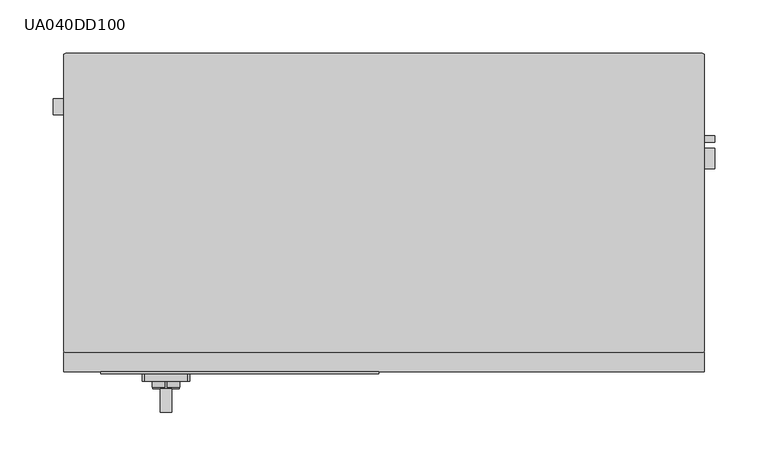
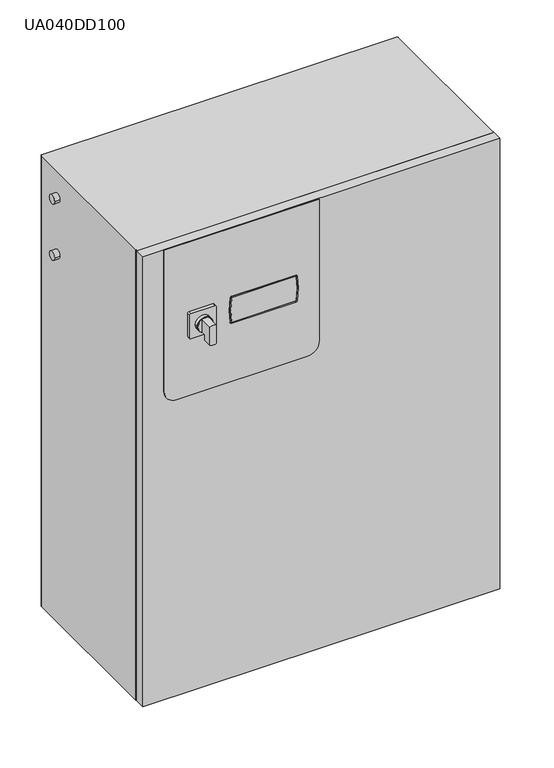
"""IFC4 building model written with IfcOpenShell, lengths in millimetres: proxy geometry, HVAC_Other_Carel_Humidifog-Direct : UA040DD100."""

from ifc_helpers import new_model, si_unit, point, frame, frame_2d, origin, origin_with_axes, place, context, project, spatial, polyline, circle_curve, trimmed, segment, composite_curve, outline, extrude, source, transform, mapped, element, save
from ifc_brep_helpers import plane_surface, cylinder_surface, advanced_brep


def ua040dd100_16a9a5c3(model_context):
    return source(origin(), model_context, "Body", "SolidModel", [
        advanced_brep(
        [(-209.6160524, -336.1, 634.0250278), (-198.6160524, -336.1, 634.0250278), (-198.6160524, -336.1, 666.2249722), (-209.6160524, -336.1, 666.2249722), (-209.6160524, -313.7, 666.2249722), (-198.6160524, -313.7, 666.2249722), (-198.6160524, -313.7, 643.7690937), (-209.6160524, -313.7, 643.7912081), (-209.6160524, -321.6, 634.0250278), (-198.6160524, -321.6, 634.0250278), (-198.6160524, -321.6, 643.7690937), (-209.6160524, -321.6, 643.7912081)],
        [
            (0, 1, circle_curve(frame((-204.1160524, -336.1, 645.25), z_axis=(0.0, -1.0, 0.0), x_axis=(1.0, 0.0, 0.0)), 12.5)),
            (1, 2),
            (2, 3, circle_curve(frame((-204.1160524, -336.1, 655.0), z_axis=(0.0, -1.0, 0.0), x_axis=(-1.0, 0.0, 0.0)), 12.5)),
            (3, 0),
            (4, 5, circle_curve(frame((-204.1160524, -313.7, 655.0), z_axis=(0.0, 1.0, 0.0), x_axis=(-1.0, 0.0, 0.0)), 12.5)),
            (5, 6),
            (6, 7, circle_curve(frame((-204.0934858, -313.7, 655.0050949), z_axis=(0.0, 1.0, 0.0), x_axis=(1.0, 0.0, 0.0)), 12.5)),
            (7, 4),
            (0, 8),
            (8, 9, circle_curve(frame((-204.1160524, -321.6, 645.25), z_axis=(0.0, -1.0, 0.0), x_axis=(1.0, 0.0, 0.0)), 12.5)),
            (9, 1),
            (9, 10),
            (10, 6),
            (5, 2),
            (4, 3),
            (7, 11),
            (11, 8),
            (11, 10, circle_curve(frame((-204.0934858, -321.6, 655.0050949), z_axis=(0.0, -1.0, 0.0), x_axis=(1.0, 0.0, 0.0)), 12.5)),
        ],
        [
            plane_surface(frame((-191.6160524, -336.1, 645.25), z_axis=(0.0, -1.0, 0.0), x_axis=(0.0, 0.0, 1.0))),
            plane_surface(frame((-191.6160524, -313.7, 645.25), z_axis=(0.0, 1.0, 0.0), x_axis=(0.0, 0.0, -1.0))),
            cylinder_surface(frame((-204.1160524, -313.7, 645.25), z_axis=(0.0, -1.0, 0.0), x_axis=(1.0, 0.0, 0.0)), 12.5),
            plane_surface(frame((-198.6160524, -336.1, 634.0250278), z_axis=(1.0, 0.0, 0.0), x_axis=(0.0, 1.0, 0.0))),
            cylinder_surface(frame((-204.1160524, -313.7, 655.0), z_axis=(0.0, -1.0, 0.0), x_axis=(-1.0, 0.0, 0.0)), 12.5),
            plane_surface(frame((-209.6160524, -336.1, 666.2249722), z_axis=(-1.0, 0.0, 0.0), x_axis=(0.0, 1.0, 0.0))),
            plane_surface(frame((-198.6160524, -321.6, 634.0250278), z_axis=(0.0, 1.0, 0.0), x_axis=(0.0, 0.0, 1.0))),
            cylinder_surface(frame((-204.0934858, -309.7446174, 655.0050949), z_axis=(0.0, 1.0, 0.0), x_axis=(1.0, 0.0, 0.0)), 12.5),
        ],
        [
            (0, [[1, 2, 3, 4]]),
            (1, [[5, 6, 7, 8]]),
            (2, [[-1, 9, 10, 11]]),
            (3, [[-2, -11, 12, 13, -6, 14]]),
            (4, [[-3, -14, -5, 15]]),
            (5, [[-4, -15, -8, 16, 17, -9]]),
            (6, [[18, -12, -10, -17]]),
            (7, [[-18, -16, -7, -13]]),
        ],
    ),
        extrude(outline(composite_curve([segment(polyline([(800.0, -5.0), (800.0, -265.0), (548.0, -265.0)]), True, "CONTINUOUS"), segment(trimmed(circle_curve(frame_2d((548.0, -245.0)), 20.0), [point((548.0, -265.0))], [point((528.0, -245.0))], False, "CARTESIAN"), True, "CONTINUOUS"), segment(polyline([(528.0, -245.0), (528.0, -25.0)]), True, "CONTINUOUS"), segment(trimmed(circle_curve(frame_2d((548.0, -25.0)), 20.0), [point((528.0, -25.0))], [point((548.0, -5.0))], False, "CARTESIAN"), True, "CONTINUOUS"), segment(polyline([(548.0, -5.0), (800.0, -5.0)]), True, "CONTINUOUS")], self_intersect=False), holes=[composite_curve([segment(trimmed(circle_curve(frame_2d((677.0, -44.1499556)), 2.0), [point((679.0, -44.1499556))], [point((677.3666667, -42.183854))], True, "CARTESIAN"), True, "CONTINUOUS"), segment(trimmed(circle_curve(frame_2d((655.0, -162.1160524)), 122.0), [point((677.3666667, -42.183854))], [point((632.6333333, -42.183854))], True, "CARTESIAN"), True, "CONTINUOUS"), segment(trimmed(circle_curve(frame_2d((633.0, -44.1499556)), 2.0), [point((632.6333333, -42.183854))], [point((631.0, -44.1499556))], True, "CARTESIAN"), True, "CONTINUOUS"), segment(polyline([(631.0, -44.1499556), (631.0, -152.0821493)]), True, "CONTINUOUS"), segment(trimmed(circle_curve(frame_2d((633.0, -152.0821493)), 2.0), [point((631.0, -152.0821493))], [point((632.6333333, -154.0482509))], True, "CARTESIAN"), True, "CONTINUOUS"), segment(trimmed(circle_curve(frame_2d((655.0, -34.1160524)), 122.0), [point((632.6333333, -154.0482509))], [point((677.3666667, -154.0482509))], True, "CARTESIAN"), True, "CONTINUOUS"), segment(trimmed(circle_curve(frame_2d((677.0, -152.0821493)), 2.0), [point((677.3666667, -154.0482509))], [point((679.0, -152.0821493))], True, "CARTESIAN"), True, "CONTINUOUS"), segment(polyline([(679.0, -152.0821493), (679.0, -44.1499556)]), True, "CONTINUOUS")], self_intersect=False)]), frame((0.0, -300.0, 0.0), z_axis=(0.0, 1.0, 0.0), x_axis=(0.0, 0.0, 1.0)), (0.0, 0.0, 1.0), 2.0),
        extrude(outline(composite_curve([segment(trimmed(circle_curve(frame_2d((655.0, -34.1160524)), 119.7), [point((676.7, -151.8326613))], [point((633.3, -151.8326613))], False, "CARTESIAN"), True, "CONTINUOUS"), segment(polyline([(633.3, -151.8326613), (633.3, -44.3994436)]), True, "CONTINUOUS"), segment(trimmed(circle_curve(frame_2d((655.0, -162.1160524)), 119.7), [point((633.3, -44.3994436))], [point((676.7, -44.3994436))], False, "CARTESIAN"), True, "CONTINUOUS"), segment(polyline([(676.7, -44.3994436), (676.7, -151.8326613)]), True, "CONTINUOUS")], self_intersect=False)), frame((0.0, -300.0, 0.0), z_axis=(0.0, 1.0, 0.0), x_axis=(0.0, 0.0, 1.0)), (0.0, 0.0, 1.0), 2.0),
        extrude(outline(composite_curve([segment(trimmed(circle_curve(frame_2d((655.0050949, -204.0934858)), 12.5), [point((655.0050949, -216.5934858))], [point((655.0050949, -191.5934858))], False, "CARTESIAN"), True, "CONTINUOUS"), segment(trimmed(circle_curve(frame_2d((655.0050949, -204.0934858)), 12.5), [point((655.0050949, -191.5934858))], [point((655.0050949, -216.5934858))], False, "CARTESIAN"), True, "CONTINUOUS")], self_intersect=False)), frame((0.0, -313.7, 0.0), z_axis=(0.0, 1.0, 0.0), x_axis=(0.0, 0.0, 1.0)), (0.0, 0.0, 1.0), 7.0),
        extrude(outline(composite_curve([segment(trimmed(circle_curve(frame_2d((655.0050949, -204.0934858)), 13.0), [point((655.0050949, -217.0934858))], [point((655.0050949, -191.0934858))], False, "CARTESIAN"), True, "CONTINUOUS"), segment(trimmed(circle_curve(frame_2d((655.0050949, -204.0934858)), 13.0), [point((655.0050949, -191.0934858))], [point((655.0050949, -217.0934858))], False, "CARTESIAN"), True, "CONTINUOUS")], self_intersect=False)), frame((0.0, -312.7, 0.0), z_axis=(0.0, 1.0, 0.0), x_axis=(0.0, 0.0, 1.0)), (0.0, 0.0, 1.0), 14.7),
        extrude(outline(composite_curve([segment(trimmed(circle_curve(frame_2d((675.25, -224.3660524)), 2.0), [point((677.25, -224.3660524))], [point((675.25, -226.3660524))], False, "CARTESIAN"), True, "CONTINUOUS"), segment(polyline([(675.25, -226.3660524), (634.75, -226.3660524)]), True, "CONTINUOUS"), segment(trimmed(circle_curve(frame_2d((634.75, -224.3660524)), 2.0), [point((634.75, -226.3660524))], [point((632.75, -224.3660524))], False, "CARTESIAN"), True, "CONTINUOUS"), segment(polyline([(632.75, -224.3660524), (632.75, -183.8660524)]), True, "CONTINUOUS"), segment(trimmed(circle_curve(frame_2d((634.75, -183.8660524)), 2.0), [point((632.75, -183.8660524))], [point((634.75, -181.8660524))], False, "CARTESIAN"), True, "CONTINUOUS"), segment(polyline([(634.75, -181.8660524), (675.25, -181.8660524)]), True, "CONTINUOUS"), segment(trimmed(circle_curve(frame_2d((675.25, -183.8660524)), 2.0), [point((675.25, -181.8660524))], [point((677.25, -183.8660524))], False, "CARTESIAN"), True, "CONTINUOUS"), segment(polyline([(677.25, -183.8660524), (677.25, -224.3660524)]), True, "CONTINUOUS")], self_intersect=False)), frame((0.0, -306.7, 0.0), z_axis=(0.0, 1.0, 0.0), x_axis=(0.0, 0.0, 1.0)), (0.0, 0.0, 1.0), 8.7),
        extrude(outline(composite_curve([segment(polyline([(-300.0, -277.7), (-300.0, -2.3)]), True, "CONTINUOUS"), segment(trimmed(circle_curve(frame_2d((-297.7, -2.3)), 2.3), [point((-300.0, -2.3))], [point((-297.7, 0.0))], False, "CARTESIAN"), True, "CONTINUOUS"), segment(polyline([(-297.7, 0.0), (297.7, 0.0)]), True, "CONTINUOUS"), segment(trimmed(circle_curve(frame_2d((297.7, -2.3)), 2.3), [point((297.7, 0.0))], [point((300.0, -2.3))], False, "CARTESIAN"), True, "CONTINUOUS"), segment(polyline([(300.0, -2.3), (300.0, -277.7)]), True, "CONTINUOUS"), segment(trimmed(circle_curve(frame_2d((297.7, -277.7)), 2.3), [point((300.0, -277.7))], [point((297.7, -280.0))], False, "CARTESIAN"), True, "CONTINUOUS"), segment(polyline([(297.7, -280.0), (-297.7, -280.0)]), True, "CONTINUOUS"), segment(trimmed(circle_curve(frame_2d((-297.7, -277.7)), 2.3), [point((-297.7, -280.0))], [point((-300.0, -277.7))], False, "CARTESIAN"), True, "CONTINUOUS")], self_intersect=False)), origin_with_axes(), (0.0, 0.0, 1.0), 800.0),
        extrude(outline(polyline([(-300.0, -298.0), (-300.0, -280.0), (300.0, -280.0), (300.0, -298.0), (-300.0, -298.0)])), origin_with_axes(), (0.0, 0.0, 1.0), 800.0),
        extrude(outline(composite_curve([segment(trimmed(circle_curve(frame_2d((-49.961871, 754.9615125)), 7.5), [point((-57.461871, 754.9615125))], [point((-42.461871, 754.9615125))], False, "CARTESIAN"), True, "CONTINUOUS"), segment(trimmed(circle_curve(frame_2d((-49.961871, 754.9615125)), 7.5), [point((-42.461871, 754.9615125))], [point((-57.461871, 754.9615125))], False, "CARTESIAN"), True, "CONTINUOUS")], self_intersect=False)), frame((-309.5, 0.0, 0.0), z_axis=(1.0, 0.0, 0.0), x_axis=(0.0, 1.0, 0.0)), (0.0, 0.0, 1.0), 9.5),
        extrude(outline(composite_curve([segment(trimmed(circle_curve(frame_2d((-49.961871, 654.9615125)), 7.5), [point((-57.461871, 654.9615125))], [point((-42.461871, 654.9615125))], False, "CARTESIAN"), True, "CONTINUOUS"), segment(trimmed(circle_curve(frame_2d((-49.961871, 654.9615125)), 7.5), [point((-42.461871, 654.9615125))], [point((-57.461871, 654.9615125))], False, "CARTESIAN"), True, "CONTINUOUS")], self_intersect=False)), frame((-309.5, 0.0, 0.0), z_axis=(1.0, 0.0, 0.0), x_axis=(0.0, 1.0, 0.0)), (0.0, 0.0, 1.0), 9.5),
        extrude(outline(composite_curve([segment(trimmed(circle_curve(frame_2d((-80.0, 490.0)), 3.175), [point((-83.175, 490.0))], [point((-76.825, 490.0))], False, "CARTESIAN"), True, "CONTINUOUS"), segment(trimmed(circle_curve(frame_2d((-80.0, 490.0)), 3.175), [point((-76.825, 490.0))], [point((-83.175, 490.0))], False, "CARTESIAN"), True, "CONTINUOUS")], self_intersect=False)), frame((300.0, 0.0, 0.0), z_axis=(1.0, 0.0, 0.0), x_axis=(0.0, 1.0, 0.0)), (0.0, 0.0, 1.0), 9.5),
        extrude(outline(composite_curve([segment(trimmed(circle_curve(frame_2d((-80.0, 430.0)), 3.175), [point((-83.175, 430.0))], [point((-76.825, 430.0))], False, "CARTESIAN"), True, "CONTINUOUS"), segment(trimmed(circle_curve(frame_2d((-80.0, 430.0)), 3.175), [point((-76.825, 430.0))], [point((-83.175, 430.0))], False, "CARTESIAN"), True, "CONTINUOUS")], self_intersect=False)), frame((300.0, 0.0, 0.0), z_axis=(1.0, 0.0, 0.0), x_axis=(0.0, 1.0, 0.0)), (0.0, 0.0, 1.0), 9.5),
        extrude(outline(composite_curve([segment(trimmed(circle_curve(frame_2d((-80.0, 370.0)), 3.175), [point((-83.175, 370.0))], [point((-76.825, 370.0))], False, "CARTESIAN"), True, "CONTINUOUS"), segment(trimmed(circle_curve(frame_2d((-80.0, 370.0)), 3.175), [point((-76.825, 370.0))], [point((-83.175, 370.0))], False, "CARTESIAN"), True, "CONTINUOUS")], self_intersect=False)), frame((300.0, 0.0, 0.0), z_axis=(1.0, 0.0, 0.0), x_axis=(0.0, 1.0, 0.0)), (0.0, 0.0, 1.0), 9.5),
        extrude(outline(composite_curve([segment(trimmed(circle_curve(frame_2d((-80.0, 310.0)), 3.175), [point((-83.175, 310.0))], [point((-76.825, 310.0))], False, "CARTESIAN"), True, "CONTINUOUS"), segment(trimmed(circle_curve(frame_2d((-80.0, 310.0)), 3.175), [point((-76.825, 310.0))], [point((-83.175, 310.0))], False, "CARTESIAN"), True, "CONTINUOUS")], self_intersect=False)), frame((300.0, 0.0, 0.0), z_axis=(1.0, 0.0, 0.0), x_axis=(0.0, 1.0, 0.0)), (0.0, 0.0, 1.0), 9.5),
        extrude(outline(composite_curve([segment(trimmed(circle_curve(frame_2d((-98.5, 725.0)), 9.525), [point((-108.025, 725.0))], [point((-88.975, 725.0))], False, "CARTESIAN"), True, "CONTINUOUS"), segment(trimmed(circle_curve(frame_2d((-98.5, 725.0)), 9.525), [point((-88.975, 725.0))], [point((-108.025, 725.0))], False, "CARTESIAN"), True, "CONTINUOUS")], self_intersect=False)), frame((300.0, 0.0, 0.0), z_axis=(1.0, 0.0, 0.0), x_axis=(0.0, 1.0, 0.0)), (0.0, 0.0, 1.0), 9.5),
        extrude(outline(composite_curve([segment(trimmed(circle_curve(frame_2d((-207.0, -235.0)), 9.525), [point((-216.525, -235.0))], [point((-197.475, -235.0))], False, "CARTESIAN"), True, "CONTINUOUS"), segment(trimmed(circle_curve(frame_2d((-207.0, -235.0)), 9.525), [point((-197.475, -235.0))], [point((-216.525, -235.0))], False, "CARTESIAN"), True, "CONTINUOUS")], self_intersect=False)), frame((0.0, 0.0, -20.0), z_axis=(0.0, 0.0, 1.0), x_axis=(1.0, 0.0, 0.0)), (0.0, 0.0, 1.0), 20.0),
    ])


if __name__ == "__main__":
    model = new_model("IFC4")
    model_context = context("Model", 3, world=origin())
    ifc_project = project(units=[si_unit("LENGTHUNIT", "METRE", prefix="MILLI")], contexts=[model_context])
    site = spatial("IfcSite", under=ifc_project)
    building = spatial("IfcBuilding", under=site)
    placement = place(None, origin())
    ua040dd100_shape = ua040dd100_16a9a5c3(model_context)
    element("IfcBuildingElementProxy", 1, Name="HVAC_Other_Carel_Humidifog-Direct : UA040DD100", ObjectType="HVAC_Other_Carel_Humidifog-Direct : UA040DD100", at=placement, inside=building, context=model_context, shape_type="MappedRepresentation", body=[
        mapped(ua040dd100_shape, transform((0.0, 0.0, 0.0), x_axis=(1.0, 0.0, 0.0), y_axis=(0.0, 1.0, 0.0), z_axis=(0.0, 0.0, 1.0))),
    ])
    save(model, "model.ifc")
